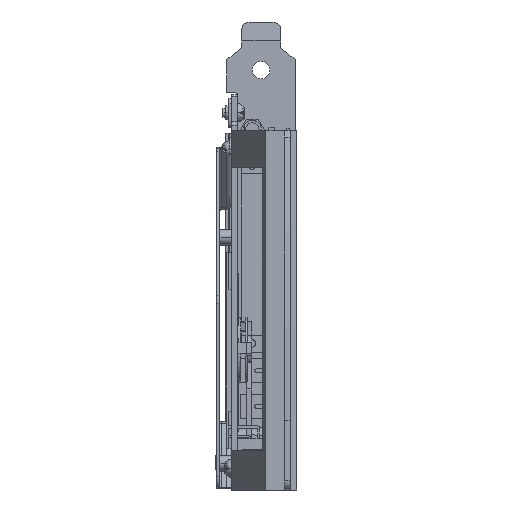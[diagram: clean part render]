
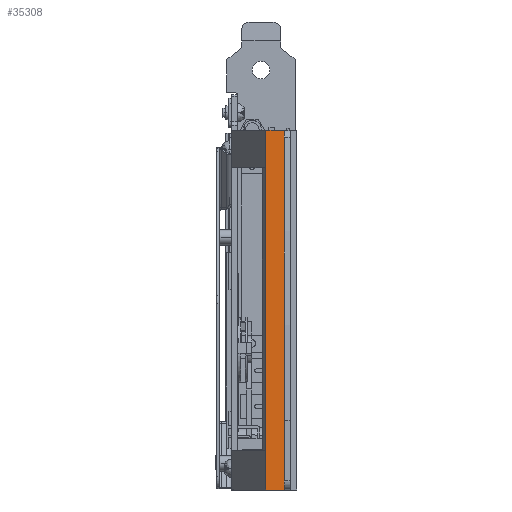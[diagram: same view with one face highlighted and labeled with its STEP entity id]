
A CAD part, front view. The second image highlights one B-rep face of the part: STEP entity #35308.
In plain terms, the highlighted planar face has unit normal (0, -1, 0).
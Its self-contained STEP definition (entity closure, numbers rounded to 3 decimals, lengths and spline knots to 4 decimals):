
#4030=DIRECTION('',(1.,0.,0.));
#4031=VECTOR('',#4030,0.198);
#4032=CARTESIAN_POINT('',(0.364,-12.579,-0.185));
#4033=LINE('',#4032,#4031);
#4123=DIRECTION('',(1.,0.,0.));
#4124=VECTOR('',#4123,0.198);
#4125=CARTESIAN_POINT('',(0.364,-12.579,-4.01));
#4126=LINE('',#4125,#4124);
#4199=DIRECTION('',(0.,0.,1.));
#4200=VECTOR('',#4199,3.825);
#4201=CARTESIAN_POINT('',(0.364,-12.579,-4.01));
#4202=LINE('',#4201,#4200);
#4218=DIRECTION('',(0.,0.,1.));
#4219=VECTOR('',#4218,3.825);
#4220=CARTESIAN_POINT('',(0.562,-12.579,-4.01));
#4221=LINE('',#4220,#4219);
#32100=CARTESIAN_POINT('',(0.364,-12.579,-4.01));
#32101=VERTEX_POINT('',#32100);
#32102=CARTESIAN_POINT('',(0.562,-12.579,-4.01));
#32103=VERTEX_POINT('',#32102);
#32120=CARTESIAN_POINT('',(0.364,-12.579,-0.185));
#32121=VERTEX_POINT('',#32120);
#32122=CARTESIAN_POINT('',(0.562,-12.579,-0.185));
#32123=VERTEX_POINT('',#32122);
#35296=CARTESIAN_POINT('',(0.364,-12.579,-4.01));
#35297=DIRECTION('',(0.,-1.,0.));
#35298=DIRECTION('',(1.,0.,0.));
#35299=AXIS2_PLACEMENT_3D('',#35296,#35297,#35298);
#35300=PLANE('',#35299);
#35301=ORIENTED_EDGE('',*,*,#35229,.F.);
#35302=ORIENTED_EDGE('',*,*,#35274,.T.);
#35303=ORIENTED_EDGE('',*,*,#35023,.T.);
#35305=ORIENTED_EDGE('',*,*,#35304,.F.);
#35306=EDGE_LOOP('',(#35301,#35302,#35303,#35305));
#35307=FACE_OUTER_BOUND('',#35306,.F.);
#35308=ADVANCED_FACE('',(#35307),#35300,.T.);
#35023=EDGE_CURVE('',#32121,#32123,#4033,.T.);
#35229=EDGE_CURVE('',#32101,#32103,#4126,.T.);
#35274=EDGE_CURVE('',#32101,#32121,#4202,.T.);
#35304=EDGE_CURVE('',#32103,#32123,#4221,.T.);
